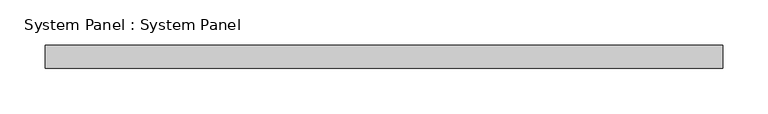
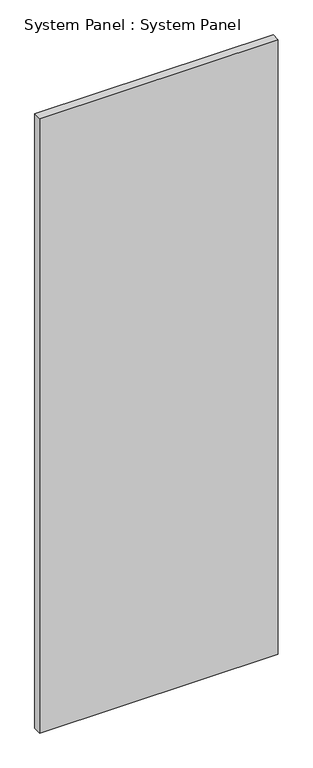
"""IFC4 building model written with IfcOpenShell, lengths in millimetres: plate geometry, System Panel : System Panel."""

import ifcopenshell
import ifcopenshell.guid

model = None  # the IFC model being written
_history = None  # IfcOwnerHistory: only IFC2X3 demands one
_inside = {}  # id of a spatial element -> (the spatial element, [elements in it])
_under = {}  # id of a project, library or spatial element -> (it, [spatial elements below it])
_declared = {}  # id of a project -> (the project, [libraries it declares])
_typed = {}  # id of a type object -> (the type object, [elements of that type])
_made_of = {}  # id of a material, layer set ... -> (it, [elements and type objects made of it])


def new_model(schema):
    """Start an empty IFC model of exactly this schema.

    Asked for "IFC4X3", IfcOpenShell would pick the latest addendum, in which some entities
    have other attributes; the version numbers below select the first issue.
    IFC2X3 requires an IfcOwnerHistory on every rooted entity: one is made here for all.
    """
    global model, _history
    if schema == "IFC4X3":
        model = ifcopenshell.file(schema_version=(4, 3, 0, 0))
    else:
        model = ifcopenshell.file(schema=schema)
    _inside.clear()
    _under.clear()
    _declared.clear()
    _typed.clear()
    _made_of.clear()
    _history = None
    if model.schema == "IFC2X3":
        org = make("IfcOrganization", Name="unknown")
        user = make(
            "IfcPersonAndOrganization",
            ThePerson=make("IfcPerson", FamilyName="unknown"),
            TheOrganization=org,
        )
        app = make(
            "IfcApplication",
            ApplicationDeveloper=org,
            Version="unknown",
            ApplicationFullName="unknown",
            ApplicationIdentifier="unknown",
        )
        _history = make(
            "IfcOwnerHistory",
            OwningUser=user,
            OwningApplication=app,
            ChangeAction="ADDED",
            CreationDate=0,
        )
    return model


def make(cls, **values):
    """One entity of the class cls with the attributes given. An attribute that is None is left unset."""
    return model.create_entity(
        cls, **{name: value for name, value in values.items() if value is not None}
    )


def rooted(cls, **values):
    """An entity with a GlobalId (a new one), such as an element, a storey or a relation."""
    return make(cls, GlobalId=ifcopenshell.guid.new(), OwnerHistory=_history, **values)


def si_unit(unit_type, name, prefix=None):
    """IfcSIUnit, for example si_unit("LENGTHUNIT", "METRE", prefix="MILLI")."""
    return make("IfcSIUnit", UnitType=unit_type, Prefix=prefix, Name=name)


def assignment(units):
    """IfcUnitAssignment: the units of a project."""
    return None if units is None else make("IfcUnitAssignment", Units=units)


def point(xyz):
    """IfcCartesianPoint."""
    return None if xyz is None else make("IfcCartesianPoint", Coordinates=xyz)


def direction(xyz):
    """IfcDirection."""
    return None if xyz is None else make("IfcDirection", DirectionRatios=xyz)


def frame(location, z_axis=None, x_axis=None):
    """IfcAxis2Placement3D, a coordinate frame: its origin and axes. An axis left out is left unset."""
    return make(
        "IfcAxis2Placement3D",
        Location=point(location),
        Axis=direction(z_axis),
        RefDirection=direction(x_axis),
    )


def origin():
    """The frame at (0, 0, 0) with its axes left unset."""
    return frame((0.0, 0.0, 0.0))


def origin_with_axes():
    """The frame at (0, 0, 0) with the z axis (0, 0, 1) and the x axis (1, 0, 0) written out."""
    return frame((0.0, 0.0, 0.0), z_axis=(0.0, 0.0, 1.0), x_axis=(1.0, 0.0, 0.0))


def place(relative_to, where):
    """IfcLocalPlacement: puts the frame where relative to a parent placement (None: the world)."""
    return make(
        "IfcLocalPlacement", PlacementRelTo=relative_to, RelativePlacement=where
    )


def context(
    kind, dimensions, precision=None, world=None, true_north=None, identifier=None
):
    """IfcGeometricRepresentationContext, for example the 3D "Model" context."""
    return make(
        "IfcGeometricRepresentationContext",
        ContextIdentifier=identifier,
        ContextType=kind,
        CoordinateSpaceDimension=dimensions,
        Precision=precision,
        WorldCoordinateSystem=world,
        TrueNorth=true_north,
    )


def project(units=None, contexts=None):
    """IfcProject with its units and contexts."""
    return rooted(
        "IfcProject",
        Name="project",
        RepresentationContexts=contexts,
        UnitsInContext=assignment(units),
    )


def spatial(cls, under=None, at=None, **own):
    """A site, building, storey or space (cls), placed at a placement, below another one or the project."""
    s = rooted(cls, ObjectPlacement=at, **own)
    if under is not None:
        _under.setdefault(under.id(), (under, []))[1].append(s)
    return s


def polyline(points):
    """IfcPolyline through the points."""
    return make("IfcPolyline", Points=[point(p) for p in points])


def outline(outer, holes=None, kind="AREA"):
    """IfcArbitraryClosedProfileDef: a profile drawn as a closed curve; with holes, ...WithVoids."""
    if holes is None:
        return make("IfcArbitraryClosedProfileDef", ProfileType=kind, OuterCurve=outer)
    return make(
        "IfcArbitraryProfileDefWithVoids",
        ProfileType=kind,
        OuterCurve=outer,
        InnerCurves=holes,
    )


def extrude(swept, where, along, depth):
    """IfcExtrudedAreaSolid: the profile swept, set in the frame where, extruded along a direction by depth."""
    return make(
        "IfcExtrudedAreaSolid",
        SweptArea=swept,
        Position=where,
        ExtrudedDirection=direction(along),
        Depth=depth,
    )


def shape(context_of_items, identifier, shape_type, items):
    """IfcShapeRepresentation: the items that make up one representation, for example the "Body"."""
    return make(
        "IfcShapeRepresentation",
        ContextOfItems=context_of_items,
        RepresentationIdentifier=identifier,
        RepresentationType=shape_type,
        Items=items,
    )


def source(mapping_origin, context_of_items, identifier, shape_type, items):
    """IfcRepresentationMap: a shape defined once, which mapped items show again and again."""
    return make(
        "IfcRepresentationMap",
        MappingOrigin=mapping_origin,
        MappedRepresentation=shape(context_of_items, identifier, shape_type, items),
    )


def transform(
    local_origin,
    x_axis=None,
    y_axis=None,
    z_axis=None,
    scale=None,
    scale2=None,
    scale3=None,
    uniform=True,
):
    """IfcCartesianTransformationOperator3D, or its non-uniform kind. x_axis, y_axis, z_axis: its Axis1, 2, 3."""
    if uniform:
        return make(
            "IfcCartesianTransformationOperator3D",
            Axis1=direction(x_axis),
            Axis2=direction(y_axis),
            LocalOrigin=point(local_origin),
            Scale=scale,
            Axis3=direction(z_axis),
        )
    return make(
        "IfcCartesianTransformationOperator3DnonUniform",
        Axis1=direction(x_axis),
        Axis2=direction(y_axis),
        LocalOrigin=point(local_origin),
        Scale=scale,
        Axis3=direction(z_axis),
        Scale2=scale2,
        Scale3=scale3,
    )


def mapped(mapping_source, mapping_target):
    """IfcMappedItem: shows the shape of a source again, moved by a transform."""
    return make(
        "IfcMappedItem", MappingSource=mapping_source, MappingTarget=mapping_target
    )


def made_of(thing, what):
    """Note that an element or type object is made of a material, layer set ...; save() writes the relation."""
    if what is not None:
        _made_of.setdefault(what.id(), (what, []))[1].append(thing)
    return thing


def element(
    cls,
    number,
    at=None,
    inside=None,
    cuts=None,
    type_object=None,
    material=None,
    context=None,
    identifier="Body",
    shape_type=None,
    held_by="IfcProductDefinitionShape",
    body=None,
    shapes=None,
    **own,
):
    """One element of the class cls, such as IfcWall. Its Tag is "e" and its number.

    at: its placement. inside: the storey or other place that contains it. cuts: it is an
    opening in that element (IfcRelVoidsElement). A single representation is given by context,
    identifier, shape_type and body (its items); several are given by shapes. held_by: the class
    of the entity that holds the representations. save() writes the other relations.
    """
    e = rooted(cls, Tag="e%d" % number, ObjectPlacement=at, **own)
    if body is not None:
        shapes = [shape(context, identifier, shape_type, body)]
    if shapes is not None:
        e.Representation = make(held_by, Representations=shapes)
    if inside is not None:
        _inside.setdefault(inside.id(), (inside, []))[1].append(e)
    if cuts is not None:
        rooted(
            "IfcRelVoidsElement", RelatingBuildingElement=cuts, RelatedOpeningElement=e
        )
    if type_object is not None:
        _typed.setdefault(type_object.id(), (type_object, []))[1].append(e)
    return made_of(e, material)


def aggregate(whole, parts):
    """IfcRelAggregates: a whole, such as a stair, and the parts it consists of."""
    return rooted("IfcRelAggregates", RelatingObject=whole, RelatedObjects=parts)


def save(model, path):
    """Write the relations noted so far, then the file.

    IfcRelAggregates (storeys below a building ...), IfcRelContainedInSpatialStructure (elements
    in a storey), IfcRelDefinesByType, IfcRelAssociatesMaterial and IfcRelDeclares: one each for
    every whole, place, type object, material and project.
    """
    for whole, parts in _under.values():
        aggregate(whole, parts)
    for where, things in _inside.values():
        rooted(
            "IfcRelContainedInSpatialStructure",
            RelatedElements=things,
            RelatingStructure=where,
        )
    for kind, things in _typed.values():
        rooted("IfcRelDefinesByType", RelatedObjects=things, RelatingType=kind)
    for what, things in _made_of.values():
        rooted("IfcRelAssociatesMaterial", RelatedObjects=things, RelatingMaterial=what)
    for by, libraries in _declared.values():
        rooted("IfcRelDeclares", RelatingContext=by, RelatedDefinitions=libraries)
    model.write(path)


def system_panel_system_panel_e406a2c2(model_context):
    return source(origin(), model_context, "Body", "SweptSolid", [
        extrude(outline(polyline([(374.65, 19.05), (-374.65, 19.05), (-374.65, 44.45), (374.65, 44.45), (374.65, 19.05)])), origin_with_axes(), (0.0, 0.0, 1.0), 2038.35),
    ])


if __name__ == "__main__":
    model = new_model("IFC4")
    model_context = context("Model", 3, world=origin())
    ifc_project = project(units=[si_unit("LENGTHUNIT", "METRE", prefix="MILLI")], contexts=[model_context])
    site = spatial("IfcSite", under=ifc_project)
    building = spatial("IfcBuilding", under=site)
    placement = place(None, origin())
    system_panel_system_panel_shape = system_panel_system_panel_e406a2c2(model_context)
    element("IfcPlate", 1, ObjectType="System Panel : System Panel", at=placement, inside=building, context=model_context, shape_type="MappedRepresentation", body=[
        mapped(system_panel_system_panel_shape, transform((0.0, 0.0, 0.0), x_axis=(1.0, 0.0, 0.0), y_axis=(0.0, 1.0, 0.0), z_axis=(0.0, 0.0, 1.0))),
    ])
    save(model, "model.ifc")
